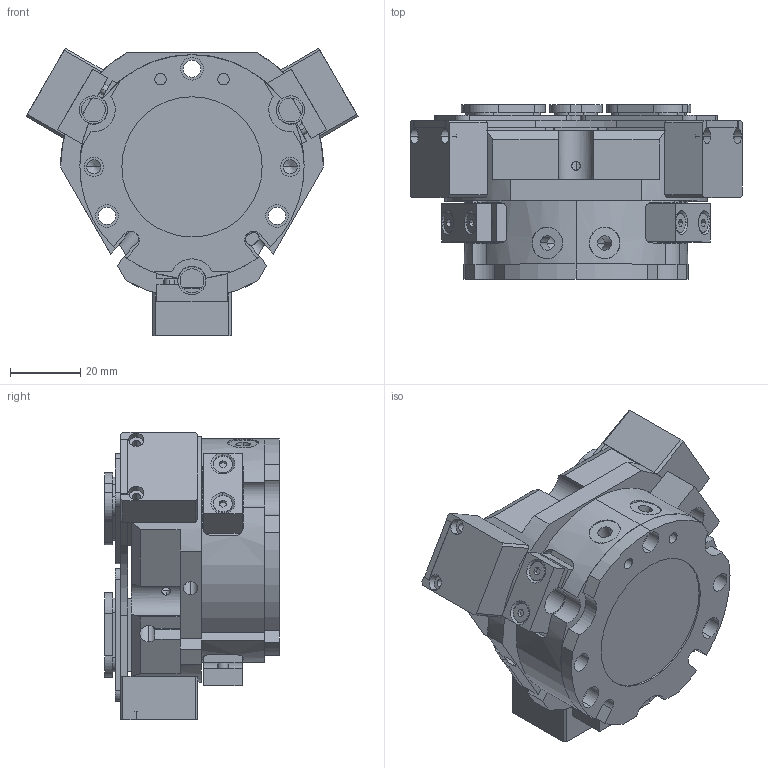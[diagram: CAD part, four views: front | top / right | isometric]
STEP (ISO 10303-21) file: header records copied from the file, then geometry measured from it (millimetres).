
FILE_DESCRIPTION (( 'STEP AP214' ), '1' );
FILE_NAME ('FCT 64A-1-SD.STEP', '2021-09-16T02:10:34', ( 'DEEP' ), ( 'Microsoft' ), 'SwSTEP 2.0', 'SolidWorks 2016', '' );
FILE_SCHEMA (( 'AUTOMOTIVE_DESIGN' ));
Length unit declared in the file: millimetre
Products named in the file (30): FCT 64A-1-SD-003; FCT 64A-1-SD-001; FCT 64A-1-SD-004; FCT 64A-1-005; FCT 64A-1-SD-002; FCT 64A-1-002; FCT 64A-1-001; FCT 64A-1-004; FCT 64A-1-003; FCT 64A-1-SD
Assembly tree (20 placements, depth 3):
  FCT 64A-1-SD-003
  FCT 64A-1-SD-004
  FCT 64A-1-SD-002
  FCT 64A-1-SD-001
  FCT 64A-1-SD-001
Bounding box: 94.73 x 49.8 x 82.04 mm (x, y, z)
Volume: 150304.3 mm3; surface area: 61937.1 mm2
Topology: 19 solids, 19 shells, 909 faces, 2368 edges, 1510 vertices
Faces by surface type: plane 433, cylinder 344, cone 132
Entity records: 19115 total; most frequent: CARTESIAN_POINT 3928, DIRECTION 3092, ORIENTED_EDGE 2932, EDGE_CURVE 1466, AXIS2_PLACEMENT_3D 1124, VERTEX_POINT 954, VECTOR 844, LINE 844
